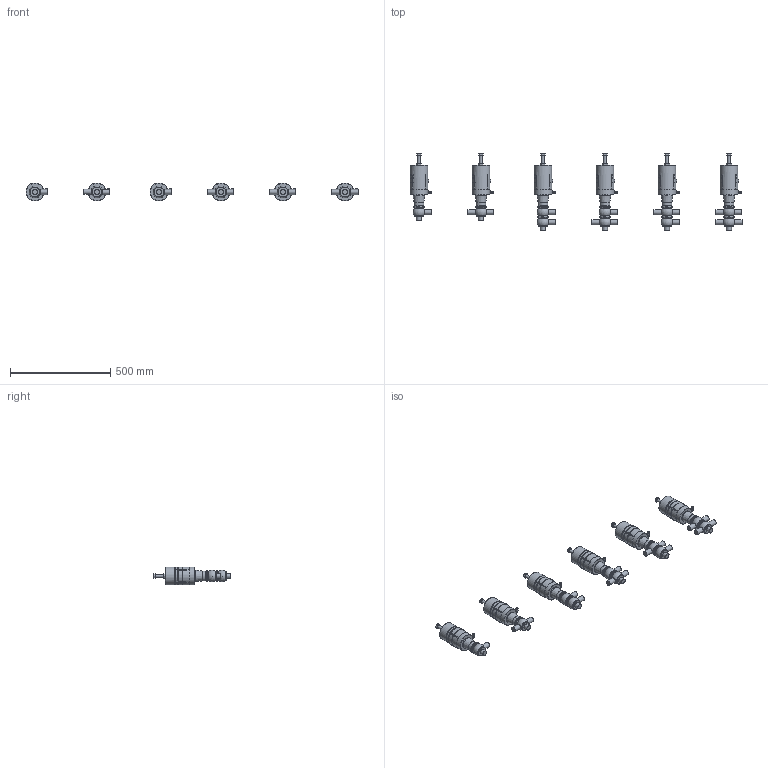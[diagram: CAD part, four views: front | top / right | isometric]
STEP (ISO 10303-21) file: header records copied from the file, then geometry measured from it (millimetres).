
FILE_DESCRIPTION((''),'2;1');
FILE_NAME('\\BV-SRV1\Ufficio tecnico\cad3d\PNEUMATICA\Ing1-1\pne bbzp e derivate\BBZS5\BBZS5-DN0254-CIL83-SAL.iam.step','2009-10-19T10:17:43',(''),(''),'Autodesk Inventor 2010','Autodesk Inventor 2010','');
FILE_SCHEMA(('AUTOMOTIVE_DESIGN { 1 0 10303 214 1 1 1 1 }'));
Length unit declared in the file: millimetre
Products named in the file (7): BBZS5-DN0254-CIL83-SAL; Assemblaggio-DN025; COR-INF-L-SAL-DN25; COR-INF-T-SAL-DN25; COR-SUP-L-SAL-DN25; COR-SUP-T-SAL-DN25; cil 83  tarabile
Assembly tree (22 placements, depth 2):
  BBZS5-DN0254-CIL83-SAL
    Assemblaggio-DN025  x6
    COR-INF-L-SAL-DN25  x3
    COR-INF-T-SAL-DN25  x3
    COR-SUP-L-SAL-DN25  x2
    COR-SUP-T-SAL-DN25  x2
    cil 83  tarabile  x6
Bounding box: 1659.61 x 384.8 x 89.38 mm (x, y, z)
Volume: 7876860.2 mm3; surface area: 693367.8 mm2
Topology: 22 solids, 52 shells, 1308 faces, 3058 edges, 1845 vertices
Faces by surface type: plane 491, cylinder 343, cone 260, bspline 90, sphere 82, torus 42
Full cylindrical faces by diameter (mm): 4.9 x6, 6 x12, 7 x6, 8.3 x6, 10 x6, 11 x6, 11.5 x6, 14 x18, 19.37 x6, 25.4 x21, 49 x26, 57 x26, 84.813 x18, 86 x12, 86.1 x6, 88.5 x6, 89.5 x6
Entity records: 7432 total; most frequent: CARTESIAN_POINT 2035, DIRECTION 1064, ORIENTED_EDGE 900, AXIS2_PLACEMENT_3D 454, EDGE_CURVE 450, EDGE_LOOP 351, VERTEX_POINT 313, FACE_OUTER_BOUND 247
